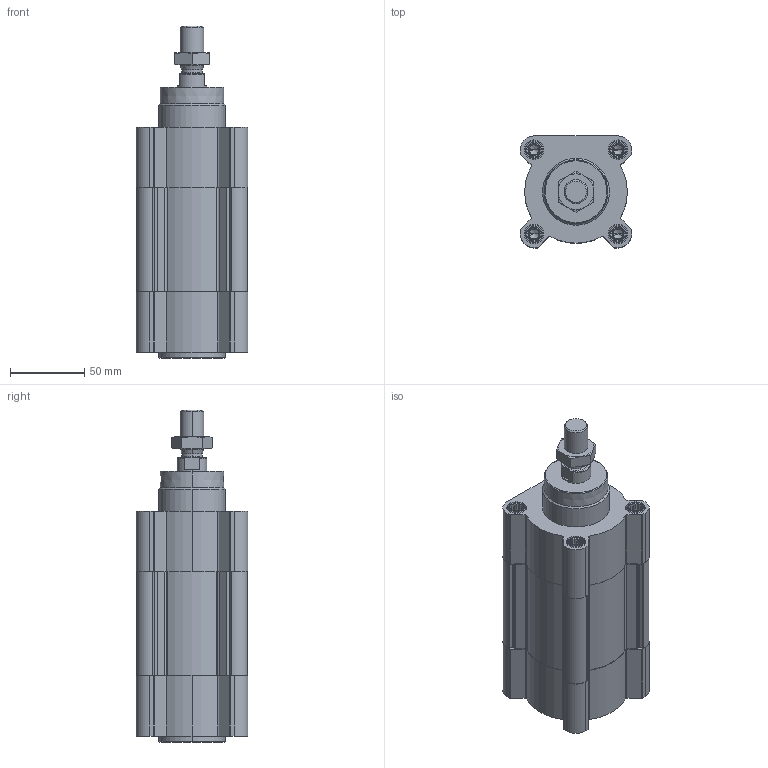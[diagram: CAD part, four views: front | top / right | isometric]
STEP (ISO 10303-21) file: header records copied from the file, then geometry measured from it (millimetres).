
FILE_DESCRIPTION (( 'STEP AP203' ), '1' );
FILE_NAME ('CPME63-30.STEP', '2023-07-11T12:26:22', ( '' ), ( '' ), 'SwSTEP 2.0', 'SolidWorks 2019', '' );
FILE_SCHEMA (( 'CONFIG_CONTROL_DESIGN' ));
Length unit declared in the file: millimetre
Products named in the file (1): CPME63-30
Bounding box: 75 x 75 x 223.1 mm (x, y, z)
Volume: 674578.4 mm3; surface area: 127474.2 mm2
Topology: 3 solids, 3 shells, 639 faces, 1655 edges, 1050 vertices
Faces by surface type: plane 325, cylinder 200, cone 106, torus 8
Entity records: 19989 total; most frequent: CARTESIAN_POINT 4403, ORIENTED_EDGE 3278, DIRECTION 3187, EDGE_CURVE 1639, AXIS2_PLACEMENT_3D 1131, VERTEX_POINT 1050, LINE 925, VECTOR 925
